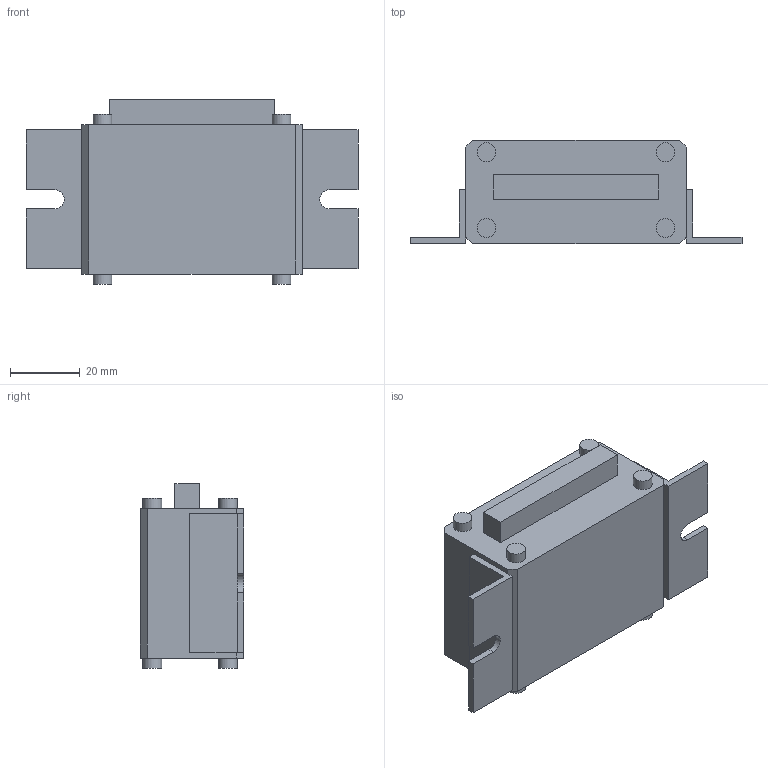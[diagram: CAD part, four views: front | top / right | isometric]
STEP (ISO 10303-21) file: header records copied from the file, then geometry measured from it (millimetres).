
FILE_DESCRIPTION(/* description */ (''),/* implementation_level */ '2;1');
FILE_NAME(/* name */ 'C:/Users/Justinas/Desktop/CU021A_model v1.step',/* time_stamp */ '2021-04-15T10:22:40+03:00',/* author */ (''),/* organization */ (''),/* preprocessor_version */ 'ST-DEVELOPER v18.1',/* originating_system */ 'Autodesk Translation Framework v10.6.0.1341',/* authorisation */ '');
FILE_SCHEMA (('AUTOMOTIVE_DESIGN { 1 0 10303 214 3 1 1 }'));
Length unit declared in the file: millimetre
Products named in the file (1): CU021A_model
Bounding box: 95.5 x 29.8 x 53.2 mm (x, y, z)
Volume: 88159.7 mm3; surface area: 15726.6 mm2
Topology: 1 solids, 1 shells, 55 faces, 128 edges, 84 vertices
Faces by surface type: plane 45, cylinder 10
Full cylindrical faces by diameter (mm): 5.4 x8
Entity records: 1583 total; most frequent: CARTESIAN_POINT 268, DIRECTION 260, ORIENTED_EDGE 256, EDGE_CURVE 128, LINE 108, VECTOR 108, VERTEX_POINT 84, AXIS2_PLACEMENT_3D 76
